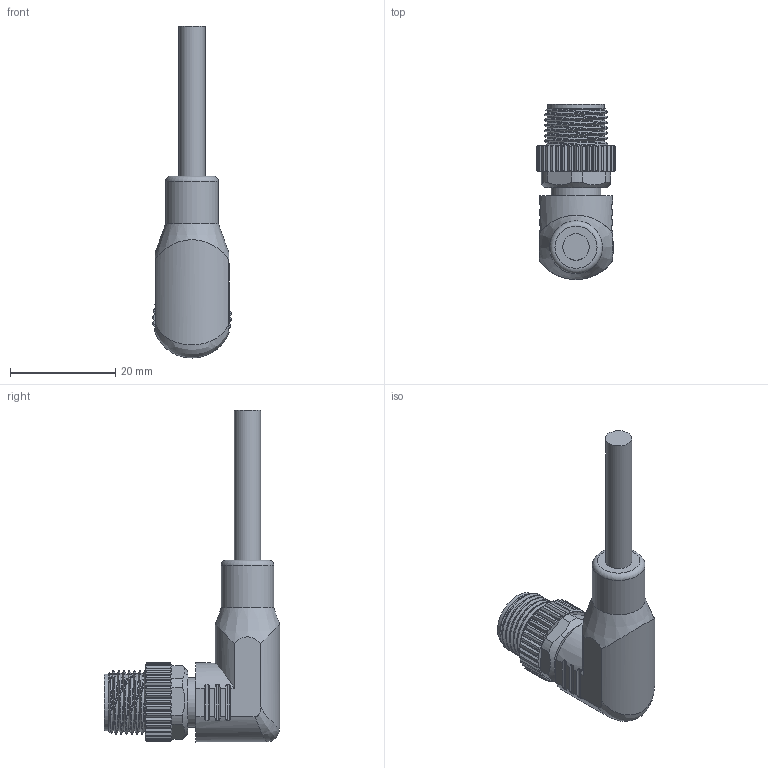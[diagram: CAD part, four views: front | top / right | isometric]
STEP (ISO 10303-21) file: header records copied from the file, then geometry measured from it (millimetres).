
FILE_DESCRIPTION(/* description */ (''),/* implementation_level */ '2;1');
FILE_NAME(/* name */ 'M12-4MR-L.stp',/* time_stamp */ '2025-05-07T10:50:11+08:00',/* author */ (''),/* organization */ (''),/* preprocessor_version */ 'ST-DEVELOPER v16.7',/* originating_system */ 'SIEMENS PLM Software NX 12.0',/* authorisation */ '');
FILE_SCHEMA (('AUTOMOTIVE_DESIGN { 1 0 10303 214 3 1 1 1 }'));
Length unit declared in the file: millimetre
Products named in the file (1): Admi15807B4Bvei1
Bounding box: 15 x 33.25 x 63 mm (x, y, z)
Volume: 6988.9 mm3; surface area: 4916.3 mm2
Topology: 1 solids, 16 shells, 555 faces, 1517 edges, 1002 vertices
Faces by surface type: plane 219, cylinder 193, cone 100, extrusion 16, bspline 13, sphere 8, torus 6
Full cylindrical faces by diameter (mm): 2.1 x15, 5 x1, 9.4 x1, 9.5 x1, 10 x1, 10.8 x1
Entity records: 20151 total; most frequent: CARTESIAN_POINT 6456, ORIENTED_EDGE 2936, DIRECTION 2701, EDGE_CURVE 1468, AXIS2_PLACEMENT_3D 997, VERTEX_POINT 985, VECTOR 707, LINE 691
